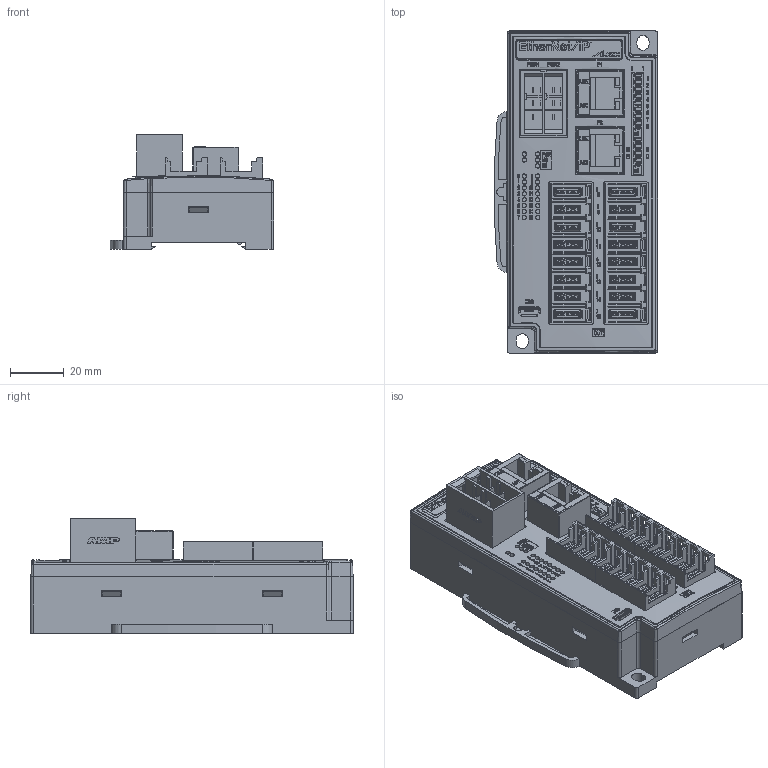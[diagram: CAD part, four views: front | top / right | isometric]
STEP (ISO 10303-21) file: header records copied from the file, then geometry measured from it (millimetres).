
FILE_DESCRIPTION((''),'2;1');
FILE_NAME('EIEP0F','2026-05-11T15:37:54',('gijyu181'),(''),'CREO PARAMETRIC BY PTC INC, 2018050','CREO PARAMETRIC BY PTC INC, 2018050','');
FILE_SCHEMA(('CONFIG_CONTROL_DESIGN','SHAPE_APPEARANCE_LAYERS_GROUPS'));
Products named in the file (1): EIEP0F
Bounding box: 60.87 x 120 x 42.6 mm (x, y, z)
Volume: 156781.9 mm3; surface area: 65219.1 mm2
Topology: 5 solids, 50 shells, 9475 faces, 26949 edges, 17949 vertices
Faces by surface type: plane 7411, extrusion 1248, cylinder 682, bspline 69, cone 41, torus 20, sphere 4
Entity records: 395247 total; most frequent: CARTESIAN_POINT 87711, ORIENTED_EDGE 53898, DIRECTION 42881, EDGE_CURVE 26949, VECTOR 23381, LINE 22133, VERTEX_POINT 17949, EDGE_LOOP 10490
